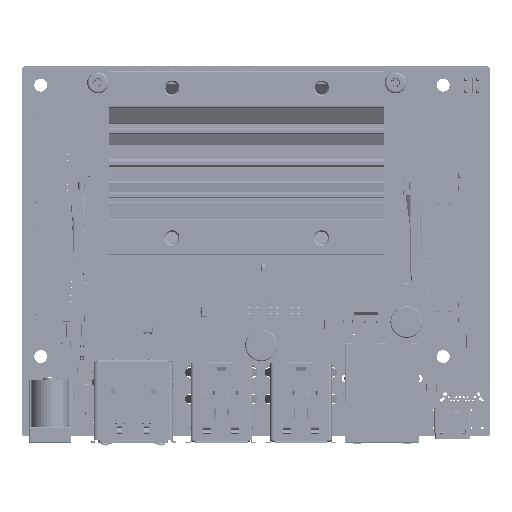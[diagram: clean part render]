
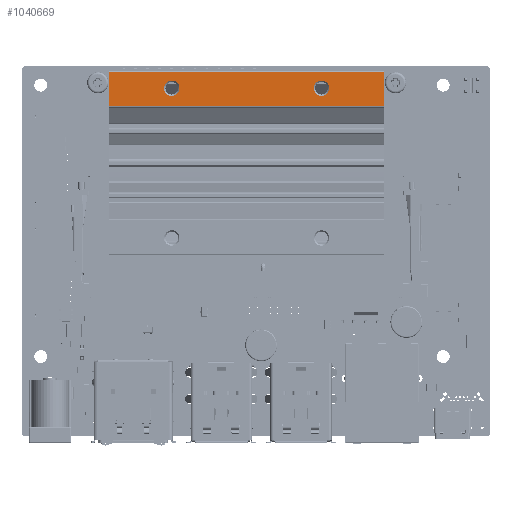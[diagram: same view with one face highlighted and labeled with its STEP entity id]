
A CAD part, top view. The second image highlights one B-rep face of the part: STEP entity #1040669.
In plain terms, the highlighted planar face has unit normal (0, 0, 1).
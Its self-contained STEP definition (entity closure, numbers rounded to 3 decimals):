
#1037526=DIRECTION('',(0.,1.,0.));
#1037527=VECTOR('',#1037526,7.254);
#1037528=CARTESIAN_POINT('',(62.15,30.946,16.));
#1037529=LINE('',#1037528,#1037527);
#1037842=DIRECTION('',(1.,0.,0.));
#1037843=VECTOR('',#1037842,58.7);
#1037844=CARTESIAN_POINT('',(3.45,30.946,16.));
#1037845=LINE('',#1037844,#1037843);
#1037849=DIRECTION('',(0.,1.,0.));
#1037850=VECTOR('',#1037849,7.254);
#1037851=CARTESIAN_POINT('',(3.45,30.946,16.));
#1037852=LINE('',#1037851,#1037850);
#1037856=DIRECTION('',(-1.,0.,0.));
#1037857=VECTOR('',#1037856,58.7);
#1037858=CARTESIAN_POINT('',(62.15,38.2,16.));
#1037859=LINE('',#1037858,#1037857);
#1037863=CARTESIAN_POINT('',(16.8,34.8,16.));
#1037864=DIRECTION('',(0.,0.,-1.));
#1037865=DIRECTION('',(1.,0.,0.));
#1037866=AXIS2_PLACEMENT_3D('',#1037863,#1037864,#1037865);
#1037871=CARTESIAN_POINT('',(16.8,34.8,16.));
#1037872=DIRECTION('',(0.,0.,-1.));
#1037873=DIRECTION('',(-1.,0.,0.));
#1037874=AXIS2_PLACEMENT_3D('',#1037871,#1037872,#1037873);
#1037879=CARTESIAN_POINT('',(48.8,34.8,16.));
#1037880=DIRECTION('',(0.,0.,-1.));
#1037881=DIRECTION('',(1.,0.,0.));
#1037882=AXIS2_PLACEMENT_3D('',#1037879,#1037880,#1037881);
#1037887=CARTESIAN_POINT('',(48.8,34.8,16.));
#1037888=DIRECTION('',(0.,0.,-1.));
#1037889=DIRECTION('',(-1.,0.,0.));
#1037890=AXIS2_PLACEMENT_3D('',#1037887,#1037888,#1037889);
#1039937=CARTESIAN_POINT('',(3.45,38.2,16.));
#1039939=VERTEX_POINT('',#1039937);
#1039943=CARTESIAN_POINT('',(62.15,38.2,16.));
#1039944=VERTEX_POINT('',#1039943);
#1039977=CARTESIAN_POINT('',(62.15,30.946,16.));
#1039979=VERTEX_POINT('',#1039977);
#1039983=CARTESIAN_POINT('',(3.45,30.946,16.));
#1039984=VERTEX_POINT('',#1039983);
#1040081=CARTESIAN_POINT('',(18.45,34.8,16.));
#1040082=CARTESIAN_POINT('',(15.15,34.8,16.));
#1040083=VERTEX_POINT('',#1040081);
#1040084=VERTEX_POINT('',#1040082);
#1040089=CARTESIAN_POINT('',(50.45,34.8,16.));
#1040090=CARTESIAN_POINT('',(47.15,34.8,16.));
#1040091=VERTEX_POINT('',#1040089);
#1040092=VERTEX_POINT('',#1040090);
#1040645=CARTESIAN_POINT('',(0.,30.716,16.));
#1040646=DIRECTION('',(0.,0.,1.));
#1040647=DIRECTION('',(0.,1.,0.));
#1040648=AXIS2_PLACEMENT_3D('',#1040645,#1040646,#1040647);
#1040649=PLANE('',#1040648);
#1040650=ORIENTED_EDGE('',*,*,#1040477,.F.);
#1040651=ORIENTED_EDGE('',*,*,#1040462,.T.);
#1040653=ORIENTED_EDGE('',*,*,#1040652,.F.);
#1040654=ORIENTED_EDGE('',*,*,#1040488,.F.);
#1040655=EDGE_LOOP('',(#1040650,#1040651,#1040653,#1040654));
#1040656=FACE_OUTER_BOUND('',#1040655,.F.);
#1040658=ORIENTED_EDGE('',*,*,#1040657,.F.);
#1040660=ORIENTED_EDGE('',*,*,#1040659,.F.);
#1040661=EDGE_LOOP('',(#1040658,#1040660));
#1040662=FACE_BOUND('',#1040661,.F.);
#1040664=ORIENTED_EDGE('',*,*,#1040663,.F.);
#1040666=ORIENTED_EDGE('',*,*,#1040665,.F.);
#1040667=EDGE_LOOP('',(#1040664,#1040666));
#1040668=FACE_BOUND('',#1040667,.F.);
#1040669=ADVANCED_FACE('',(#1040656,#1040662,#1040668),#1040649,.T.);
#1037867=CIRCLE('',#1037866,1.65);
#1037875=CIRCLE('',#1037874,1.65);
#1037883=CIRCLE('',#1037882,1.65);
#1037891=CIRCLE('',#1037890,1.65);
#1040462=EDGE_CURVE('',#1039984,#1039939,#1037852,.T.);
#1040477=EDGE_CURVE('',#1039984,#1039979,#1037845,.T.);
#1040488=EDGE_CURVE('',#1039979,#1039944,#1037529,.T.);
#1040652=EDGE_CURVE('',#1039944,#1039939,#1037859,.T.);
#1040657=EDGE_CURVE('',#1040083,#1040084,#1037867,.T.);
#1040659=EDGE_CURVE('',#1040084,#1040083,#1037875,.T.);
#1040663=EDGE_CURVE('',#1040091,#1040092,#1037883,.T.);
#1040665=EDGE_CURVE('',#1040092,#1040091,#1037891,.T.);
